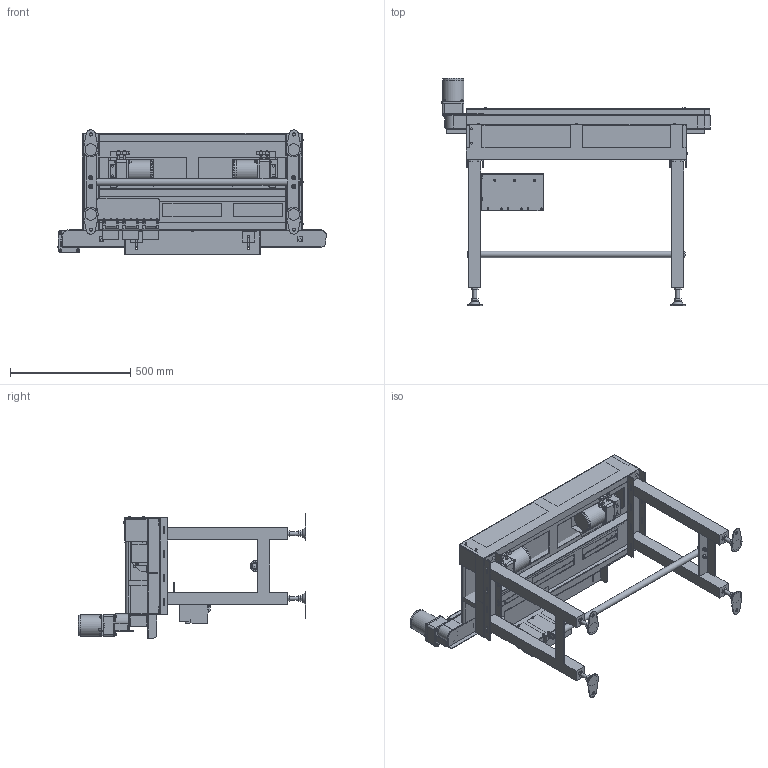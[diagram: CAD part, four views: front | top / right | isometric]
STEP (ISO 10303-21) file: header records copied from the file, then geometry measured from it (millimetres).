
FILE_DESCRIPTION( (''), '2;1');
FILE_NAME ('WEB-SGA-U-304x3-300-R-IVH-15-B.stp','2026-09-19T10:46:04',(''),(''),'spGate 21.9.5 (****-****-****-****)','','');
FILE_SCHEMA (('AUTOMOTIVE_DESIGN'));
Length unit declared in the file: millimetre
Products named in the file (91): WEB-SGA-U-304x3-300-R-IVH-15-B; TEMP_X_T-prt0; TEMP_X_T-prt1; TEMP_X_T-prt2; TEMP_X_T-prt3; TEMP_X_T-prt4; TEMP_X_T-prt5; TEMP_X_T-prt6; TEMP_X_T-prt7; TEMP_X_T-prt8; TEMP_X_T-prt9; TEMP_X_T-prt10; TEMP_X_T-prt11; TEMP_X_T-prt12; TEMP_X_T-prt13; TEMP_X_T-prt14; TEMP_X_T-prt15; TEMP_X_T-prt16; TEMP_X_T-prt17; TEMP_X_T-prt18; TEMP_X_T-prt19; TEMP_X_T-prt20; TEMP_X_T-prt21; TEMP_X_T-prt22; TEMP_X_T-prt23; TEMP_X_T-prt24; TEMP_X_T-prt25; TEMP_X_T-prt26; TEMP_X_T-prt27; TEMP_X_T-prt28; TEMP_X_T-prt29; TEMP_X_T-prt30; TEMP_X_T-prt31; TEMP_X_T-prt32; TEMP_X_T-prt33; TEMP_X_T-prt34; TEMP_X_T-prt35; TEMP_X_T-prt36; TEMP_X_T-prt37; TEMP_X_T-prt38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
Assembly tree (90 placements, depth 2):
  WEB-SGA-U-304x3-300-R-IVH-15-B
    TEMP_X_T-prt0
    TEMP_X_T-prt1
    TEMP_X_T-prt2
    TEMP_X_T-prt3
    TEMP_X_T-prt4
    TEMP_X_T-prt5
    TEMP_X_T-prt6
    TEMP_X_T-prt7
    TEMP_X_T-prt8
    TEMP_X_T-prt9
    TEMP_X_T-prt10
    TEMP_X_T-prt11
    TEMP_X_T-prt12
    TEMP_X_T-prt13
    TEMP_X_T-prt14
    TEMP_X_T-prt15
    TEMP_X_T-prt16
    TEMP_X_T-prt17
    TEMP_X_T-prt18
    TEMP_X_T-prt19
    TEMP_X_T-prt20
    TEMP_X_T-prt21
    TEMP_X_T-prt22
    TEMP_X_T-prt23
    TEMP_X_T-prt24
    TEMP_X_T-prt25
    TEMP_X_T-prt26
    TEMP_X_T-prt27
    TEMP_X_T-prt28
    TEMP_X_T-prt29
    TEMP_X_T-prt30
    TEMP_X_T-prt31
    TEMP_X_T-prt32
    TEMP_X_T-prt33
    TEMP_X_T-prt34
    TEMP_X_T-prt35
    TEMP_X_T-prt36
    TEMP_X_T-prt37
    TEMP_X_T-prt38
    TEMP_X_T-prt39
    TEMP_X_T-prt40
    TEMP_X_T-prt41
    TEMP_X_T-prt42
    TEMP_X_T-prt43
    TEMP_X_T-prt44
    TEMP_X_T-prt45
    TEMP_X_T-prt46
    TEMP_X_T-prt47
    TEMP_X_T-prt48
    TEMP_X_T-prt49
    TEMP_X_T-prt50
    TEMP_X_T-prt51
    TEMP_X_T-prt52
    TEMP_X_T-prt53
    TEMP_X_T-prt54
    TEMP_X_T-prt55
    TEMP_X_T-prt56
    TEMP_X_T-prt57
    TEMP_X_T-prt58
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Bounding box: 1119.27 x 948 x 517 mm (x, y, z)
Volume: 22898475.3 mm3; surface area: 5220759.4 mm2
Topology: 90 solids, 91 shells, 2630 faces, 6766 edges, 4486 vertices
Faces by surface type: plane 1970, cylinder 458, bspline 202
Full cylindrical faces by diameter (mm): 2 x3, 3.3 x9, 4 x18, 5 x15, 5.5 x3, 6 x32, 6.5 x24, 6.6 x12, 7 x4, 8 x8, 8.49 x3, 10 x12, 10.5 x1, 12 x3, 12.5 x12, 13 x4, 16 x8, 17 x4, 20 x7, 22 x1, 27.2 x1, 28 x2, 36 x3, 40 x4, 50 x2, 83 x3, 84 x3, 86.3 x3, 89 x3
Entity records: 140153 total; most frequent: CARTESIAN_POINT 19616, ORIENTED_EDGE 13500, DIRECTION 12914, COLOUR_RGB 9470, PRESENTATION_STYLE_ASSIGNMENT 9470, STYLED_ITEM 9470, EDGE_CURVE 6750, DRAUGHTING_PRE_DEFINED_CURVE_FONT 6750
